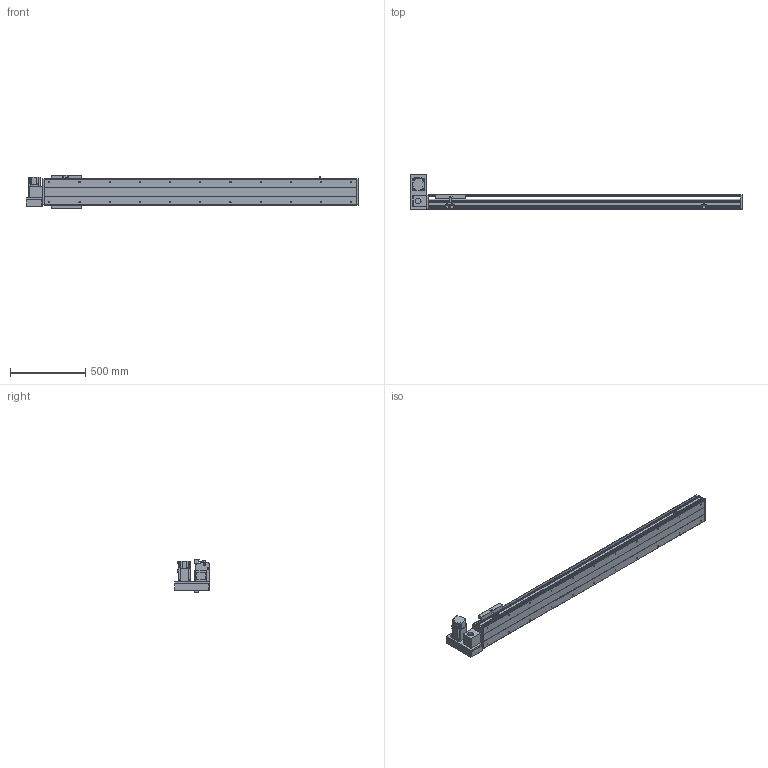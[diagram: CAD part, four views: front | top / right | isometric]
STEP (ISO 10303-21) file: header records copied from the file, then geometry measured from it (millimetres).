
FILE_DESCRIPTION(/* description */ ('STEP AP214'),/* implementation_level */ '2;1');
FILE_NAME(/* name */ 'PBS200-P40-S1700-LU-T75-C1-N(0)',/* time_stamp */ '2022-06-11T09:01:24+02:00',/* author */ ('License CC BY-ND 4.0'),/* organization */ ('CADENAS'),/* preprocessor_version */ 'ST-DEVELOPER v18.102',/* originating_system */ 'PARTsolutions',/* authorisation */ ' ');
FILE_SCHEMA (('AUTOMOTIVE_DESIGN {1 0 10303 214 3 1 1}'));
Length unit declared in the file: millimetre
Products named in the file (7): PBS200-P40-S1700-LU-T75-C1-N(0); PBS200_sensor; PBS200_plant; PBS200_sliser; T75-p1; PBS200T-LU_motors; PBS200-S1700()_body
Assembly tree (8 placements, depth 2):
  PBS200-P40-S1700-LU-T75-C1-N(0)
    PBS200_sensor  x3
    PBS200_plant
    PBS200_sliser
    T75-p1
    PBS200T-LU_motors
    PBS200-S1700()_body
Bounding box: 2200 x 231 x 221 mm (x, y, z)
Volume: 15608767.1 mm3; surface area: 2508498.3 mm2
Topology: 8 solids, 8 shells, 938 faces, 2404 edges, 1566 vertices
Faces by surface type: plane 580, cylinder 304, cone 54
Full cylindrical faces by diameter (mm): 2.459 x6, 3.242 x4, 4.5 x6, 4.917 x4, 5 x6, 6 x7, 6.6 x8, 6.647 x26, 8 x6, 10 x4, 12 x8, 38 x2, 40 x1, 70 x1
Entity records: 24941 total; most frequent: DIRECTION 4399, CARTESIAN_POINT 4246, ORIENTED_EDGE 4018, EDGE_CURVE 2009, AXIS2_PLACEMENT_3D 1543, VERTEX_POINT 1390, LINE 1313, VECTOR 1313
